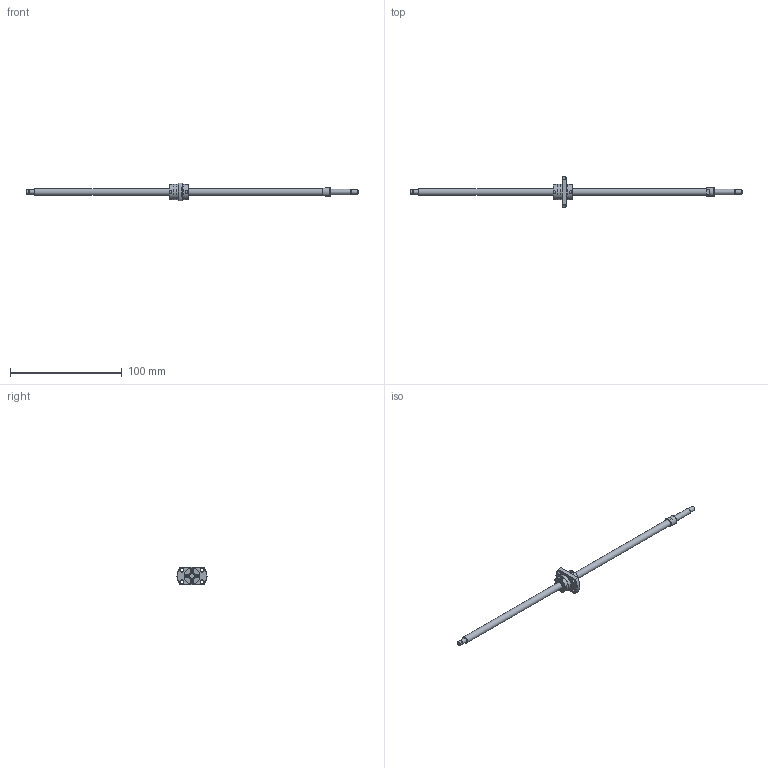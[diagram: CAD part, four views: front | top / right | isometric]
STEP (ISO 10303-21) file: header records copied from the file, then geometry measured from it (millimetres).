
FILE_DESCRIPTION(/* description */ ('STEP AP214'),/* implementation_level */ '2;1');
FILE_NAME(/* name */ 'SRT0606-253R297C7B0X(120Processing)',/* time_stamp */ '2026-08-04T17:57:01+02:00',/* author */ ('License CC BY-ND 4.0'),/* organization */ ('CADENAS'),/* preprocessor_version */ 'ST-DEVELOPER v20',/* originating_system */ 'PARTsolutions',/* authorisation */ ' ');
FILE_SCHEMA (('AUTOMOTIVE_DESIGN {1 0 10303 214 3 1 1}'));
Length unit declared in the file: millimetre
Products named in the file (3): SRT0606-253R297C7B0X(120Processing); SRT0606-253R335BCt7Processing22Shaft; SRT0606Nut
Assembly tree (2 placements, depth 2):
  SRT0606-253R297C7B0X(120Processing)
    SRT0606-253R335BCt7Processing22Shaft
    SRT0606Nut
Bounding box: 297 x 27 x 16 mm (x, y, z)
Volume: 11009.5 mm3; surface area: 7872.5 mm2
Topology: 2 solids, 2 shells, 154 faces, 365 edges, 242 vertices
Faces by surface type: plane 109, cylinder 35, cone 9, torus 1
Full cylindrical faces by diameter (mm): 3 x8, 3.4 x4, 3.7 x1, 4 x3, 5 x1, 6 x2, 8 x1, 13.6 x1, 13.8 x2, 14 x2
Entity records: 4337 total; most frequent: CARTESIAN_POINT 747, DIRECTION 732, ORIENTED_EDGE 658, EDGE_CURVE 329, AXIS2_PLACEMENT_3D 254, VERTEX_POINT 237, LINE 224, VECTOR 224
